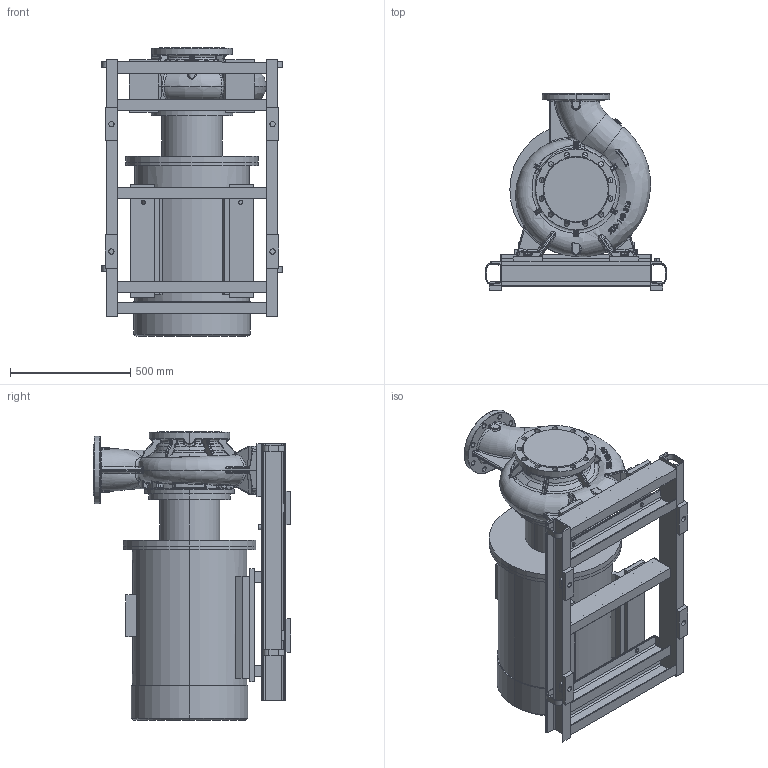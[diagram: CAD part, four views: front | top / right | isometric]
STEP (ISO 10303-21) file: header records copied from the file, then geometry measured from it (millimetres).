
FILE_DESCRIPTION (( 'STEP AP203' ), '1' );
FILE_NAME ('KRM 200-150-315-4-55.STEP', '2026-05-21T11:56:30', ( '' ), ( '' ), 'SwSTEP 2.0', 'SolidWorks 2016', '' );
FILE_SCHEMA (( 'CONFIG_CONTROL_DESIGN' ));
Length unit declared in the file: millimetre
Products named in the file (1): KRM 200-150-315-4-55
Bounding box: 750.24 x 820 x 1200.8 mm (x, y, z)
Volume: 206283531 mm3; surface area: 6593627.2 mm2
Topology: 44 solids, 44 shells, 1757 faces, 4268 edges, 2562 vertices
Faces by surface type: bspline 605, plane 470, cylinder 420, torus 124, cone 94, sphere 44
Entity records: 93442 total; most frequent: CARTESIAN_POINT 56811, ORIENTED_EDGE 8430, DIRECTION 6511, EDGE_CURVE 4215, VERTEX_POINT 2562, AXIS2_PLACEMENT_3D 2539, EDGE_LOOP 1883, ADVANCED_FACE 1757
